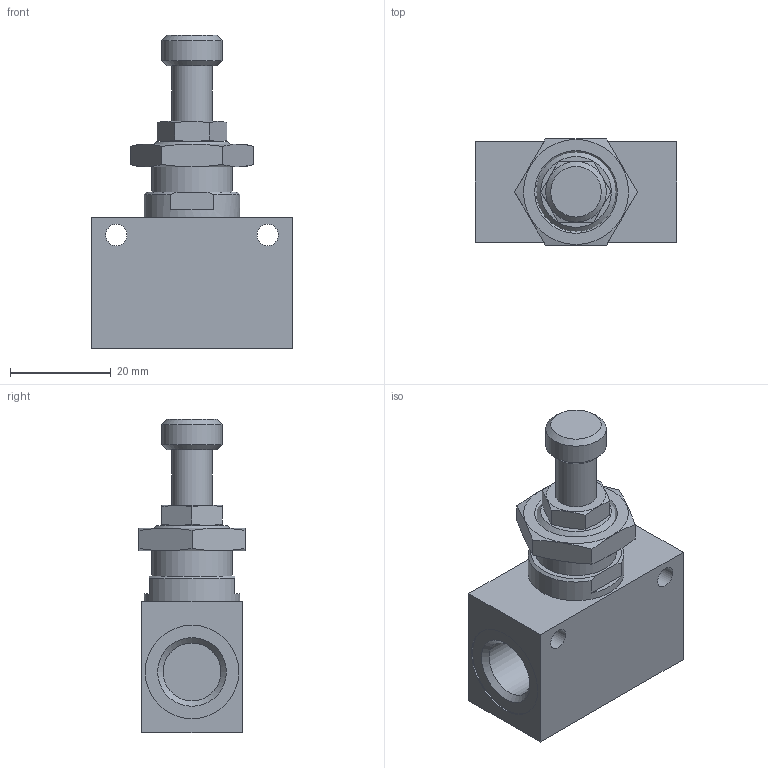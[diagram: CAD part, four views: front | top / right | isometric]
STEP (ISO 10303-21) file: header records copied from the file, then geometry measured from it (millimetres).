
FILE_DESCRIPTION(/* description */ (''),/* implementation_level */ '2;1');
FILE_NAME(/* name */ 'I:\Area Tecnica\Disegni\VARIE-3D\Componenti\600\6_01_14-1.stp',/* time_stamp */ '2017-01-04T08:26:41+01:00',/* author */ ('maniean1'),/* organization */ (''),/* preprocessor_version */ 'ST-DEVELOPER v15.2',/* originating_system */ 'Autodesk Inventor 2014',/* authorisation */ '');
FILE_SCHEMA (('AUTOMOTIVE_DESIGN { 1 0 10303 214 3 1 1 }'));
Length unit declared in the file: millimetre
Products named in the file (4): 6_01_14-1; 6_01_14-1_(A); 6_01_14-1_(B)
Bounding box: 40 x 21 x 62 mm (x, y, z)
Volume: 23982.4 mm3; surface area: 8647.1 mm2
Topology: 3 solids, 3 shells, 66 faces, 142 edges, 90 vertices
Faces by surface type: plane 34, cone 20, cylinder 12
Full cylindrical faces by diameter (mm): 4.25 x2, 7.188 x1, 8 x1, 11.445 x2, 12 x1, 14.376 x1, 16 x1, 18.5 x2, 19 x1
Entity records: 1722 total; most frequent: CARTESIAN_POINT 339, DIRECTION 272, ORIENTED_EDGE 226, AXIS2_PLACEMENT_3D 120, EDGE_CURVE 113, EDGE_LOOP 106, VERTEX_POINT 85, ADVANCED_FACE 66
